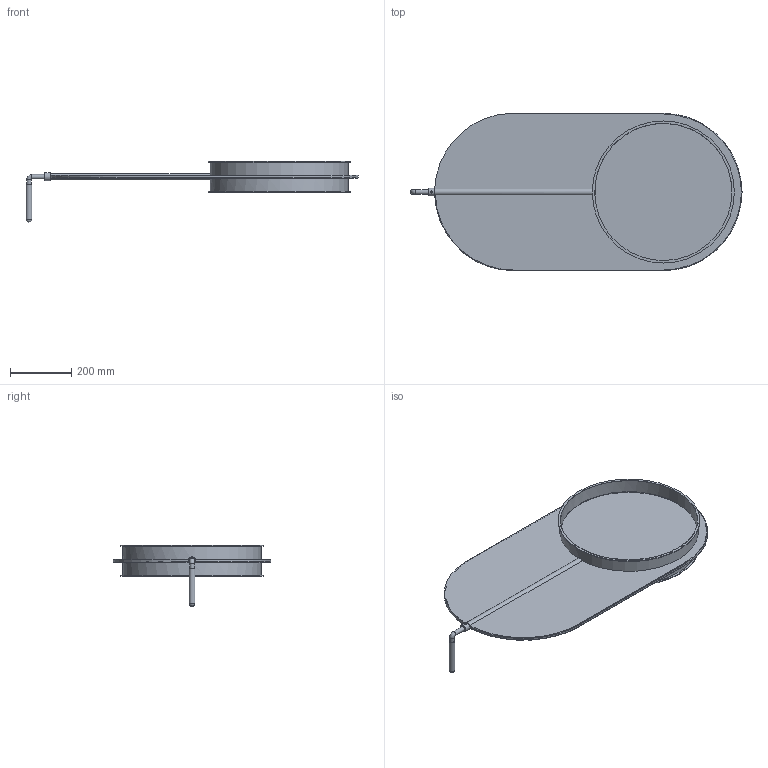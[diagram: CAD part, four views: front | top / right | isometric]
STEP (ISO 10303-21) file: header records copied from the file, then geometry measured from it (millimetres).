
FILE_DESCRIPTION((''),'2;1');
FILE_NAME('U:\Wolfgang\Marcel-3D\fertig\Kapitel 9\4521077.stp','2011-10-11T13:04:43',('iwienholt'),(''),'Autodesk Inventor 2010','Autodesk Inventor 2010','');
FILE_SCHEMA(('AUTOMOTIVE_DESIGN { 1 0 10303 214 1 1 1 1 }'));
Length unit declared in the file: millimetre
Products named in the file (3): 4521077; 4521077-1; Hebel-Ronde DN450
Assembly tree (2 placements, depth 2):
  4521077
    4521077-1
    Hebel-Ronde DN450
Bounding box: 1084.43 x 514 x 199.43 mm (x, y, z)
Volume: 2509804.1 mm3; surface area: 1963589.8 mm2
Topology: 2 solids, 2 shells, 49 faces, 125 edges, 80 vertices
Faces by surface type: cylinder 24, plane 19, torus 5, sphere 1
Full cylindrical faces by diameter (mm): 6.647 x1, 15 x2, 15.5 x1, 19 x1, 21 x1, 25 x1, 448 x2, 452 x2, 464 x2
Entity records: 1648 total; most frequent: CARTESIAN_POINT 491, DIRECTION 234, ORIENTED_EDGE 196, AXIS2_PLACEMENT_3D 100, EDGE_CURVE 98, EDGE_LOOP 72, VERTEX_POINT 70, FACE_OUTER_BOUND 49
